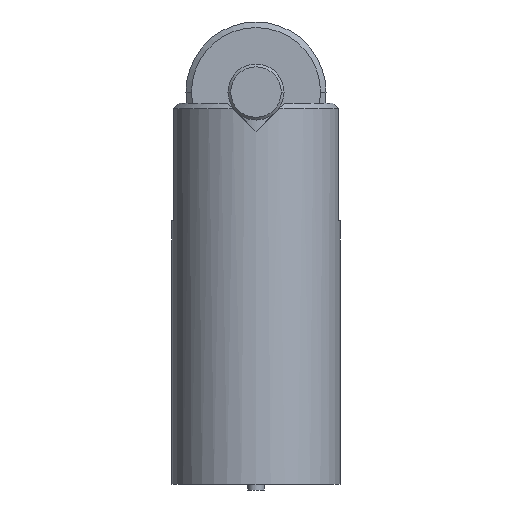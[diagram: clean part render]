
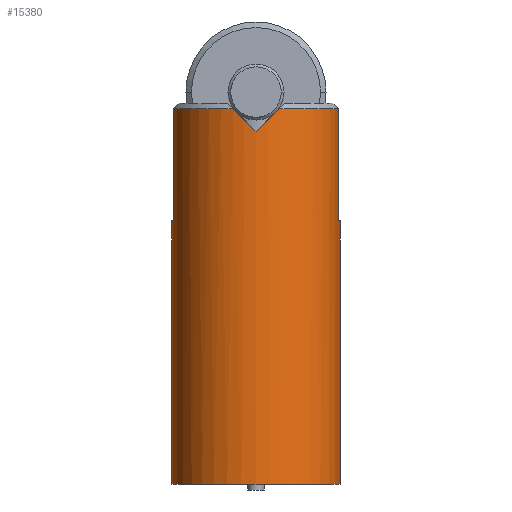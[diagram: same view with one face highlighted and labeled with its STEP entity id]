
A CAD part, front view. The second image highlights one B-rep face of the part: STEP entity #15380.
In plain terms, the highlighted cylindrical face has radius 15 mm (diameter 30 mm), a partial arc.
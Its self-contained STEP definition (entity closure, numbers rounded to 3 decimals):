
#14110=CARTESIAN_POINT('',(-2.6,-66.577,210.3));
#14120=DIRECTION('',(-0.,-1.,-0.));
#14130=DIRECTION('',(-1.,0.,0.));
#14140=AXIS2_PLACEMENT_3D('',#14110,#14120,#14130);
#14150=CIRCLE('',#14140,15.);
#14160=CARTESIAN_POINT('',(-17.6,-66.577,210.3));
#14170=VERTEX_POINT('',#14160);
#14180=CARTESIAN_POINT('',(12.4,-66.577,210.3));
#14190=VERTEX_POINT('',#14180);
#14220=EDGE_CURVE('',#14190,#14170,#14150,.T.);
#14420=CARTESIAN_POINT('',(-2.6,-68.577,210.3));
#14430=DIRECTION('',(-0.,-1.,-0.));
#14440=DIRECTION('',(1.,0.,0.));
#14450=AXIS2_PLACEMENT_3D('',#14420,#14430,#14440);
#14460=CYLINDRICAL_SURFACE('',#14450,15.);
#14470=CARTESIAN_POINT('',(-17.6,-68.577,210.3));
#14480=DIRECTION('',(-0.,-1.,-0.));
#14490=VECTOR('',#14480,1.);
#14500=LINE('',#14470,#14490);
#14510=CARTESIAN_POINT('',(-17.6,-19.577,210.3));
#14520=VERTEX_POINT('',#14510);
#14530=EDGE_CURVE('',#14520,#14170,#14500,.T.);
#14540=ORIENTED_EDGE('',*,*,#14530,.T.);
#14550=CARTESIAN_POINT('',(-2.6,-19.577,210.3));
#14560=DIRECTION('',(0.,1.,0.));
#14570=DIRECTION('',(-0.983,0.,-0.183));
#14580=AXIS2_PLACEMENT_3D('',#14550,#14560,#14570);
#14590=CIRCLE('',#14580,15.);
#14600=CARTESIAN_POINT('',(-17.346,-19.577,213.05));
#14610=VERTEX_POINT('',#14600);
#14620=EDGE_CURVE('',#14520,#14610,#14590,.T.);
#14630=ORIENTED_EDGE('',*,*,#14620,.F.);
#14640=CARTESIAN_POINT('',(-17.346,0.423,213.05));
#14650=DIRECTION('',(0.,-1.,0.));
#14660=VECTOR('',#14650,1.);
#14670=LINE('',#14640,#14660);
#14680=CARTESIAN_POINT('',(-17.346,0.423,213.05));
#14690=VERTEX_POINT('',#14680);
#14700=EDGE_CURVE('',#14690,#14610,#14670,.T.);
#14710=ORIENTED_EDGE('',*,*,#14700,.T.);
#14720=CARTESIAN_POINT('',(-2.6,0.423,210.3));
#14730=DIRECTION('',(0.,1.,0.));
#14740=DIRECTION('',(-0.983,0.,0.183));
#14750=AXIS2_PLACEMENT_3D('',#14720,#14730,#14740);
#14760=CIRCLE('',#14750,15.);
#14770=CARTESIAN_POINT('',(-6.671,0.423,
224.737));
#14780=VERTEX_POINT('',#14770);
#14790=EDGE_CURVE('',#14690,#14780,#14760,.T.);
#14800=ORIENTED_EDGE('',*,*,#14790,.F.);
#14810=CARTESIAN_POINT('',(-6.671,0.423,
224.737));
#14820=CARTESIAN_POINT('',(-6.233,-0.015,
224.86));
#14830=CARTESIAN_POINT('',(-5.348,-0.901,
225.067));
#14840=CARTESIAN_POINT('',(-3.983,-2.265,
225.257));
#14850=CARTESIAN_POINT('',(-3.064,-3.185,225.3));
#14860=CARTESIAN_POINT('',(-2.6,-3.648,225.3));
#14870=B_SPLINE_CURVE_WITH_KNOTS('',3,(#14810,#14820,#14830,#14840,
#14850,#14860),.UNSPECIFIED.,.F.,.F.,(4,1,1,4),(0.,0.333,
0.667,1.),.UNSPECIFIED.);
#14880=CARTESIAN_POINT('',(-2.6,-3.648,225.3));
#14890=VERTEX_POINT('',#14880);
#14900=EDGE_CURVE('',#14780,#14890,#14870,.T.);
#14910=ORIENTED_EDGE('',*,*,#14900,.F.);
#14920=CARTESIAN_POINT('',(-2.6,-3.648,225.3));
#14930=CARTESIAN_POINT('',(-2.136,-3.185,225.3));
#14940=CARTESIAN_POINT('',(-1.217,-2.265,
225.257));
#14950=CARTESIAN_POINT('',(0.148,-0.9,
225.067));
#14960=CARTESIAN_POINT('',(1.033,-0.015,
224.86));
#14970=CARTESIAN_POINT('',(1.471,0.423,
224.737));
#14980=B_SPLINE_CURVE_WITH_KNOTS('',3,(#14920,#14930,#14940,#14950,
#14960,#14970),.UNSPECIFIED.,.F.,.F.,(4,1,1,4),(0.,0.333,
0.667,1.),.UNSPECIFIED.);
#14990=CARTESIAN_POINT('',(1.471,0.423,
224.737));
#15000=VERTEX_POINT('',#14990);
#15010=EDGE_CURVE('',#14890,#15000,#14980,.T.);
#15020=ORIENTED_EDGE('',*,*,#15010,.F.);
#15030=CARTESIAN_POINT('',(-2.6,0.423,210.3));
#15040=DIRECTION('',(-0.,1.,0.));
#15050=DIRECTION('',(0.271,0.,0.962));
#15060=AXIS2_PLACEMENT_3D('',#15030,#15040,#15050);
#15070=CIRCLE('',#15060,15.);
#15080=CARTESIAN_POINT('',(12.146,0.423,213.05));
#15090=VERTEX_POINT('',#15080);
#15100=EDGE_CURVE('',#15000,#15090,#15070,.T.);
#15110=ORIENTED_EDGE('',*,*,#15100,.F.);
#15120=CARTESIAN_POINT('',(12.146,-19.577,213.05));
#15130=DIRECTION('',(0.,1.,0.));
#15140=VECTOR('',#15130,1.);
#15150=LINE('',#15120,#15140);
#15160=CARTESIAN_POINT('',(12.146,-19.577,213.05));
#15170=VERTEX_POINT('',#15160);
#15180=EDGE_CURVE('',#15170,#15090,#15150,.T.);
#15190=ORIENTED_EDGE('',*,*,#15180,.T.);
#15200=CARTESIAN_POINT('',(-2.6,-19.577,210.3));
#15210=DIRECTION('',(0.,1.,0.));
#15220=DIRECTION('',(1.,0.,0.));
#15230=AXIS2_PLACEMENT_3D('',#15200,#15210,#15220);
#15240=CIRCLE('',#15230,15.);
#15250=CARTESIAN_POINT('',(12.4,-19.577,210.3));
#15260=VERTEX_POINT('',#15250);
#15270=EDGE_CURVE('',#15170,#15260,#15240,.T.);
#15280=ORIENTED_EDGE('',*,*,#15270,.F.);
#15290=CARTESIAN_POINT('',(12.4,-68.577,210.3));
#15300=DIRECTION('',(-0.,-1.,-0.));
#15310=VECTOR('',#15300,1.);
#15320=LINE('',#15290,#15310);
#15330=EDGE_CURVE('',#15260,#14190,#15320,.T.);
#15340=ORIENTED_EDGE('',*,*,#15330,.F.);
#15350=ORIENTED_EDGE('',*,*,#14220,.F.);
#15360=EDGE_LOOP('',(#15350,#15340,#15280,#15190,#15110,#15020,#14910,
#14800,#14710,#14630,#14540));
#15370=FACE_OUTER_BOUND('',#15360,.T.);
#15380=ADVANCED_FACE('',(#15370),#14460,.T.);
